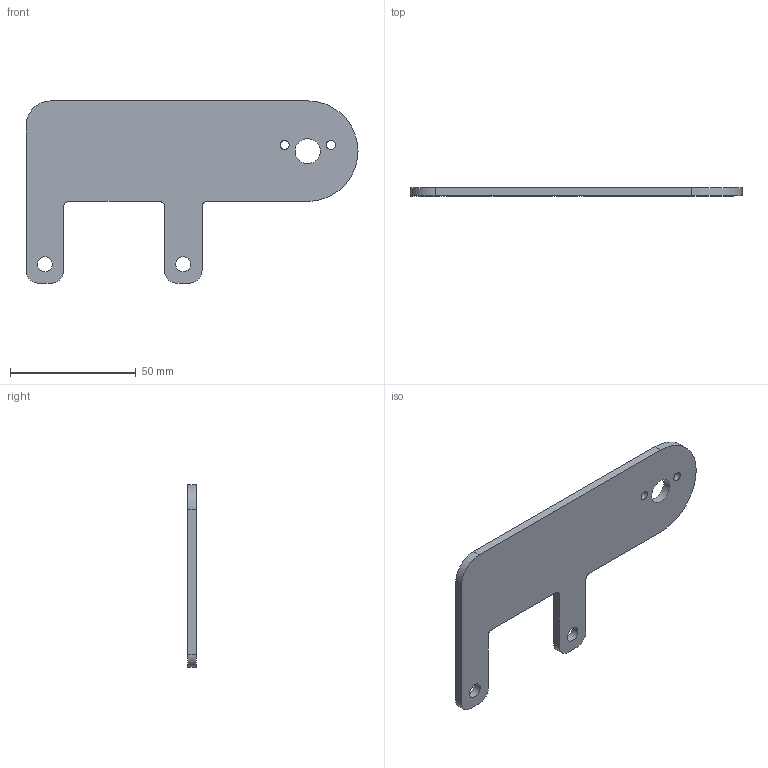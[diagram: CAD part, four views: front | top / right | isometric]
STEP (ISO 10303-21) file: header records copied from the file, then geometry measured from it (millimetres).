
FILE_DESCRIPTION(/* description */ (''),/* implementation_level */ '2;1');
FILE_NAME(/* name */ 'C:/Users/mciuntu/Documents/3d printing/Diesel Switch 3D files/Diesel Switch Obd Bracket Side Mount v2.step',/* time_stamp */ '2021-05-12T17:00:12-05:00',/* author */ (''),/* organization */ (''),/* preprocessor_version */ 'ST-DEVELOPER v18.1',/* originating_system */ 'Autodesk Translation Framework v10.6.0.1341',/* authorisation */ '');
FILE_SCHEMA (('AUTOMOTIVE_DESIGN { 1 0 10303 214 3 1 1 }'));
Length unit declared in the file: millimetre
Products named in the file (1): Diesel Switch Obd Bracket Side Mount
Bounding box: 132 x 3.2 x 72.5 mm (x, y, z)
Volume: 18758.8 mm3; surface area: 13574.8 mm2
Topology: 1 solids, 1 shells, 234 faces, 666 edges, 444 vertices
Faces by surface type: bspline 119, plane 101, cylinder 14
Full cylindrical faces by diameter (mm): 3.6 x2, 6 x2, 10 x1
Entity records: 7888 total; most frequent: CARTESIAN_POINT 2892, ORIENTED_EDGE 1332, DIRECTION 688, EDGE_CURVE 666, VERTEX_POINT 444, LINE 400, VECTOR 400, EDGE_LOOP 254
